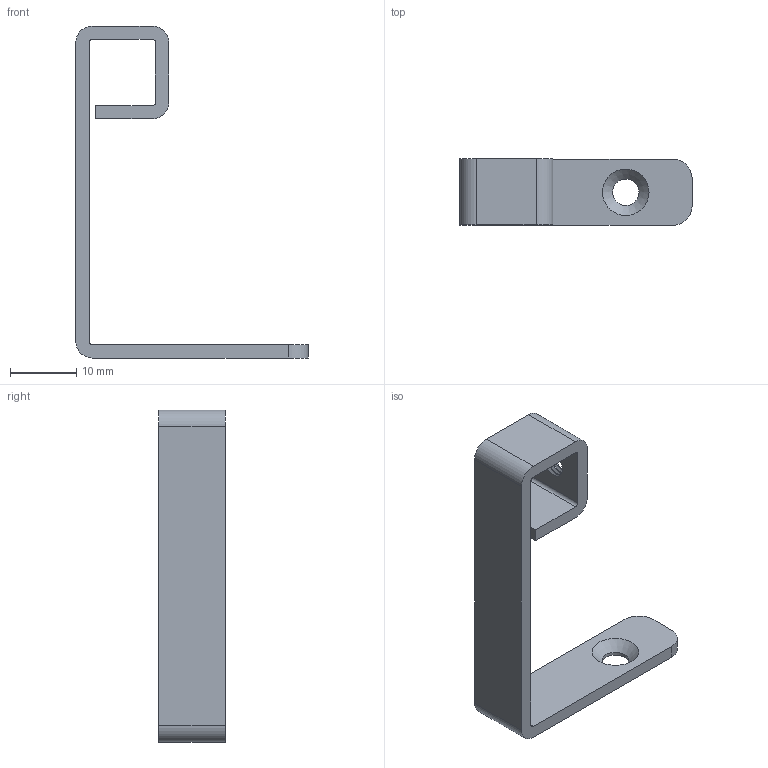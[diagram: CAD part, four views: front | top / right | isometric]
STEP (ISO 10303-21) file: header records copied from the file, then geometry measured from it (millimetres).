
FILE_DESCRIPTION(/* description */ ('K2ｽｸｴｱ転び止め(固定)'),/* implementation_level */ '2;1');
FILE_NAME(/* name */ 'Q503-F.step',/* time_stamp */ '2026-04-09T15:48:29+09:00',/* author */ (''),/* organization */ (''),/* preprocessor_version */ 'ST-DEVELOPER v20.1',/* originating_system */ 'Autodesk Translation Framework v14.24.0.0',/* authorisation */ '');
FILE_SCHEMA (('AUTOMOTIVE_DESIGN { 1 0 10303 214 3 1 1 }'));
Length unit declared in the file: millimetre
Products named in the file (1): 2026-03-25-13-45-43-157
Bounding box: 35 x 10 x 50 mm (x, y, z)
Volume: 2197 mm3; surface area: 2758.2 mm2
Topology: 1 solids, 1 shells, 36 faces, 101 edges, 67 vertices
Faces by surface type: cylinder 19, plane 14, bspline 2, cone 1
Full cylindrical faces by diameter (mm): 3.332 x2, 4 x1
Entity records: 1969 total; most frequent: CARTESIAN_POINT 904, ORIENTED_EDGE 202, DIRECTION 180, EDGE_CURVE 101, VERTEX_POINT 67, AXIS2_PLACEMENT_3D 63, LINE 54, VECTOR 54
